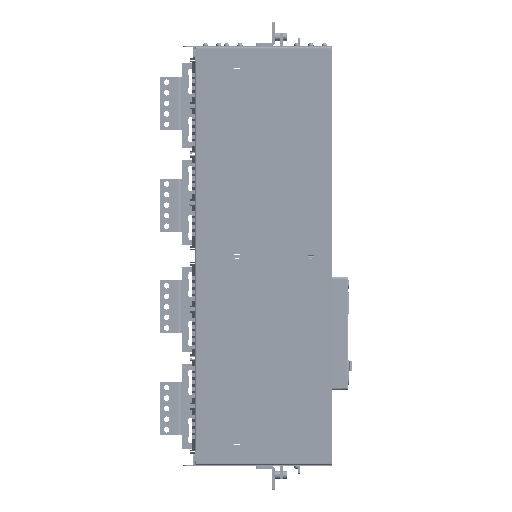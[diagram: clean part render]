
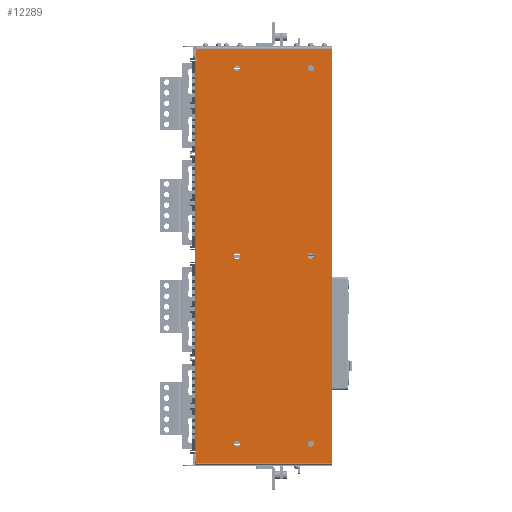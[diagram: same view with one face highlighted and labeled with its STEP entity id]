
A CAD part, front view. The second image highlights one B-rep face of the part: STEP entity #12289.
In plain terms, the highlighted planar face has unit normal (0, -1, 0).
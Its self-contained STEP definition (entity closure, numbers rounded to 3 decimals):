
#10759=DIRECTION('',(0.,0.,1.));
#10760=VECTOR('',#10759,2.2);
#10761=CARTESIAN_POINT('',(-763.2,-3.2,157.7));
#10762=LINE('',#10761,#10760);
#10771=CARTESIAN_POINT('',(-764.2,-3.2,159.9));
#10772=DIRECTION('',(0.,1.,0.));
#10773=DIRECTION('',(0.,0.,1.));
#10774=AXIS2_PLACEMENT_3D('',#10771,#10772,#10773);
#10776=DIRECTION('',(1.,0.,0.));
#10777=VECTOR('',#10776,4.);
#10778=CARTESIAN_POINT('',(-763.2,-3.2,157.7));
#10779=LINE('',#10778,#10777);
#10780=DIRECTION('',(0.,0.,1.));
#10781=VECTOR('',#10780,2.7);
#10782=CARTESIAN_POINT('',(-759.2,-3.2,157.7));
#10783=LINE('',#10782,#10781);
#10784=DIRECTION('',(0.,0.,-1.));
#10785=VECTOR('',#10784,2.7);
#10786=CARTESIAN_POINT('',(162.,-3.2,160.4));
#10787=LINE('',#10786,#10785);
#10788=DIRECTION('',(1.,0.,0.));
#10789=VECTOR('',#10788,4.);
#10790=CARTESIAN_POINT('',(162.,-3.2,157.7));
#10791=LINE('',#10790,#10789);
#10792=DIRECTION('',(0.,0.,1.));
#10793=VECTOR('',#10792,2.2);
#10794=CARTESIAN_POINT('',(166.,-3.2,157.7));
#10795=LINE('',#10794,#10793);
#10796=CARTESIAN_POINT('',(167.,-3.2,159.9));
#10797=DIRECTION('',(0.,1.,0.));
#10798=DIRECTION('',(-1.,0.,0.));
#10799=AXIS2_PLACEMENT_3D('',#10796,#10797,#10798);
#10801=DIRECTION('',(-1.,0.,0.));
#10802=VECTOR('',#10801,982.4);
#10803=CARTESIAN_POINT('',(192.6,-3.2,-160.9));
#10804=LINE('',#10803,#10802);
#10805=CARTESIAN_POINT('',(146.4,-3.2,64.1));
#10806=DIRECTION('',(0.,-1.,0.));
#10807=DIRECTION('',(-1.,0.,0.));
#10808=AXIS2_PLACEMENT_3D('',#10805,#10806,#10807);
#10810=CARTESIAN_POINT('',(146.4,-3.2,64.1));
#10811=DIRECTION('',(0.,-1.,0.));
#10812=DIRECTION('',(1.,0.,0.));
#10813=AXIS2_PLACEMENT_3D('',#10810,#10811,#10812);
#10815=CARTESIAN_POINT('',(-743.6,-3.2,64.1));
#10816=DIRECTION('',(0.,-1.,0.));
#10817=DIRECTION('',(-1.,0.,0.));
#10818=AXIS2_PLACEMENT_3D('',#10815,#10816,#10817);
#10820=CARTESIAN_POINT('',(-743.6,-3.2,64.1));
#10821=DIRECTION('',(0.,-1.,0.));
#10822=DIRECTION('',(1.,0.,0.));
#10823=AXIS2_PLACEMENT_3D('',#10820,#10821,#10822);
#10825=CARTESIAN_POINT('',(-298.6,-3.2,64.1));
#10826=DIRECTION('',(0.,-1.,0.));
#10827=DIRECTION('',(-1.,0.,0.));
#10828=AXIS2_PLACEMENT_3D('',#10825,#10826,#10827);
#10830=CARTESIAN_POINT('',(-298.6,-3.2,64.1));
#10831=DIRECTION('',(0.,-1.,0.));
#10832=DIRECTION('',(1.,0.,0.));
#10833=AXIS2_PLACEMENT_3D('',#10830,#10831,#10832);
#10835=CARTESIAN_POINT('',(146.4,-3.2,-110.9));
#10836=DIRECTION('',(0.,-1.,0.));
#10837=DIRECTION('',(-1.,0.,0.));
#10838=AXIS2_PLACEMENT_3D('',#10835,#10836,#10837);
#10840=CARTESIAN_POINT('',(146.4,-3.2,-110.9));
#10841=DIRECTION('',(0.,-1.,0.));
#10842=DIRECTION('',(1.,0.,0.));
#10843=AXIS2_PLACEMENT_3D('',#10840,#10841,#10842);
#10845=CARTESIAN_POINT('',(-298.6,-3.2,-110.9));
#10846=DIRECTION('',(0.,-1.,0.));
#10847=DIRECTION('',(-1.,0.,0.));
#10848=AXIS2_PLACEMENT_3D('',#10845,#10846,#10847);
#10850=CARTESIAN_POINT('',(-298.6,-3.2,-110.9));
#10851=DIRECTION('',(0.,-1.,0.));
#10852=DIRECTION('',(1.,0.,0.));
#10853=AXIS2_PLACEMENT_3D('',#10850,#10851,#10852);
#10855=CARTESIAN_POINT('',(-743.6,-3.2,-110.9));
#10856=DIRECTION('',(0.,-1.,0.));
#10857=DIRECTION('',(-1.,0.,0.));
#10858=AXIS2_PLACEMENT_3D('',#10855,#10856,#10857);
#10860=CARTESIAN_POINT('',(-743.6,-3.2,-110.9));
#10861=DIRECTION('',(0.,-1.,0.));
#10862=DIRECTION('',(1.,0.,0.));
#10863=AXIS2_PLACEMENT_3D('',#10860,#10861,#10862);
#10887=DIRECTION('',(-1.,0.,0.));
#10888=VECTOR('',#10887,921.2);
#10889=CARTESIAN_POINT('',(162.,-3.2,160.4));
#10890=LINE('',#10889,#10888);
#11015=DIRECTION('',(-1.,0.,0.));
#11016=VECTOR('',#11015,25.6);
#11017=CARTESIAN_POINT('',(192.6,-3.2,160.9));
#11018=LINE('',#11017,#11016);
#11221=DIRECTION('',(0.,0.,1.));
#11222=VECTOR('',#11221,321.8);
#11223=CARTESIAN_POINT('',(192.6,-3.2,-160.9));
#11224=LINE('',#11223,#11222);
#11331=DIRECTION('',(0.,0.,-1.));
#11332=VECTOR('',#11331,321.8);
#11333=CARTESIAN_POINT('',(-789.8,-3.2,160.9));
#11334=LINE('',#11333,#11332);
#11462=DIRECTION('',(-1.,0.,0.));
#11463=VECTOR('',#11462,25.6);
#11464=CARTESIAN_POINT('',(-764.2,-3.2,160.9));
#11465=LINE('',#11464,#11463);
#11590=CARTESIAN_POINT('',(-789.8,-3.2,-160.9));
#11591=VERTEX_POINT('',#11590);
#11592=CARTESIAN_POINT('',(192.6,-3.2,-160.9));
#11593=VERTEX_POINT('',#11592);
#11724=CARTESIAN_POINT('',(-763.2,-3.2,159.9));
#11725=VERTEX_POINT('',#11724);
#11726=CARTESIAN_POINT('',(-764.2,-3.2,160.9));
#11727=VERTEX_POINT('',#11726);
#11728=CARTESIAN_POINT('',(-763.2,-3.2,157.7));
#11729=VERTEX_POINT('',#11728);
#11730=CARTESIAN_POINT('',(-759.2,-3.2,157.7));
#11731=VERTEX_POINT('',#11730);
#11732=CARTESIAN_POINT('',(-759.2,-3.2,160.4));
#11733=VERTEX_POINT('',#11732);
#11734=CARTESIAN_POINT('',(162.,-3.2,160.4));
#11735=VERTEX_POINT('',#11734);
#11736=CARTESIAN_POINT('',(162.,-3.2,157.7));
#11737=VERTEX_POINT('',#11736);
#11738=CARTESIAN_POINT('',(166.,-3.2,157.7));
#11739=VERTEX_POINT('',#11738);
#11740=CARTESIAN_POINT('',(166.,-3.2,159.9));
#11741=VERTEX_POINT('',#11740);
#11742=CARTESIAN_POINT('',(167.,-3.2,160.9));
#11743=VERTEX_POINT('',#11742);
#11744=CARTESIAN_POINT('',(192.6,-3.2,160.9));
#11745=VERTEX_POINT('',#11744);
#11746=CARTESIAN_POINT('',(-789.8,-3.2,160.9));
#11747=VERTEX_POINT('',#11746);
#11748=CARTESIAN_POINT('',(139.4,-3.2,64.1));
#11749=CARTESIAN_POINT('',(153.4,-3.2,64.1));
#11750=VERTEX_POINT('',#11748);
#11751=VERTEX_POINT('',#11749);
#11752=CARTESIAN_POINT('',(-750.6,-3.2,64.1));
#11753=CARTESIAN_POINT('',(-736.6,-3.2,64.1));
#11754=VERTEX_POINT('',#11752);
#11755=VERTEX_POINT('',#11753);
#11756=CARTESIAN_POINT('',(-305.6,-3.2,64.1));
#11757=CARTESIAN_POINT('',(-291.6,-3.2,64.1));
#11758=VERTEX_POINT('',#11756);
#11759=VERTEX_POINT('',#11757);
#11760=CARTESIAN_POINT('',(139.4,-3.2,-110.9));
#11761=CARTESIAN_POINT('',(153.4,-3.2,-110.9));
#11762=VERTEX_POINT('',#11760);
#11763=VERTEX_POINT('',#11761);
#11764=CARTESIAN_POINT('',(-305.6,-3.2,-110.9));
#11765=CARTESIAN_POINT('',(-291.6,-3.2,-110.9));
#11766=VERTEX_POINT('',#11764);
#11767=VERTEX_POINT('',#11765);
#11768=CARTESIAN_POINT('',(-750.6,-3.2,-110.9));
#11769=CARTESIAN_POINT('',(-736.6,-3.2,-110.9));
#11770=VERTEX_POINT('',#11768);
#11771=VERTEX_POINT('',#11769);
#12222=CARTESIAN_POINT('',(-793.5,-3.2,-160.9));
#12223=DIRECTION('',(0.,-1.,0.));
#12224=DIRECTION('',(1.,0.,0.));
#12225=AXIS2_PLACEMENT_3D('',#12222,#12223,#12224);
#12226=PLANE('',#12225);
#12227=ORIENTED_EDGE('',*,*,#12187,.T.);
#12228=ORIENTED_EDGE('',*,*,#12203,.F.);
#12229=ORIENTED_EDGE('',*,*,#12213,.T.);
#12231=ORIENTED_EDGE('',*,*,#12230,.T.);
#12233=ORIENTED_EDGE('',*,*,#12232,.F.);
#12235=ORIENTED_EDGE('',*,*,#12234,.T.);
#12237=ORIENTED_EDGE('',*,*,#12236,.T.);
#12239=ORIENTED_EDGE('',*,*,#12238,.T.);
#12241=ORIENTED_EDGE('',*,*,#12240,.T.);
#12243=ORIENTED_EDGE('',*,*,#12242,.F.);
#12245=ORIENTED_EDGE('',*,*,#12244,.F.);
#12246=ORIENTED_EDGE('',*,*,#11923,.T.);
#12248=ORIENTED_EDGE('',*,*,#12247,.F.);
#12250=ORIENTED_EDGE('',*,*,#12249,.F.);
#12251=EDGE_LOOP('',(#12227,#12228,#12229,#12231,#12233,#12235,#12237,#12239,
#12241,#12243,#12245,#12246,#12248,#12250));
#12252=FACE_OUTER_BOUND('',#12251,.F.);
#12254=ORIENTED_EDGE('',*,*,#12253,.T.);
#12256=ORIENTED_EDGE('',*,*,#12255,.T.);
#12257=EDGE_LOOP('',(#12254,#12256));
#12258=FACE_BOUND('',#12257,.F.);
#12260=ORIENTED_EDGE('',*,*,#12259,.T.);
#12262=ORIENTED_EDGE('',*,*,#12261,.T.);
#12263=EDGE_LOOP('',(#12260,#12262));
#12264=FACE_BOUND('',#12263,.F.);
#12266=ORIENTED_EDGE('',*,*,#12265,.T.);
#12268=ORIENTED_EDGE('',*,*,#12267,.T.);
#12269=EDGE_LOOP('',(#12266,#12268));
#12270=FACE_BOUND('',#12269,.F.);
#12272=ORIENTED_EDGE('',*,*,#12271,.T.);
#12274=ORIENTED_EDGE('',*,*,#12273,.T.);
#12275=EDGE_LOOP('',(#12272,#12274));
#12276=FACE_BOUND('',#12275,.F.);
#12278=ORIENTED_EDGE('',*,*,#12277,.T.);
#12280=ORIENTED_EDGE('',*,*,#12279,.T.);
#12281=EDGE_LOOP('',(#12278,#12280));
#12282=FACE_BOUND('',#12281,.F.);
#12284=ORIENTED_EDGE('',*,*,#12283,.T.);
#12286=ORIENTED_EDGE('',*,*,#12285,.T.);
#12287=EDGE_LOOP('',(#12284,#12286));
#12288=FACE_BOUND('',#12287,.F.);
#12289=ADVANCED_FACE('',(#12252,#12258,#12264,#12270,#12276,#12282,#12288),
#12226,.T.);
#10775=CIRCLE('',#10774,1.);
#10800=CIRCLE('',#10799,1.);
#10809=CIRCLE('',#10808,7.);
#10814=CIRCLE('',#10813,7.);
#10819=CIRCLE('',#10818,7.);
#10824=CIRCLE('',#10823,7.);
#10829=CIRCLE('',#10828,7.);
#10834=CIRCLE('',#10833,7.);
#10839=CIRCLE('',#10838,7.);
#10844=CIRCLE('',#10843,7.);
#10849=CIRCLE('',#10848,7.);
#10854=CIRCLE('',#10853,7.);
#10859=CIRCLE('',#10858,7.);
#10864=CIRCLE('',#10863,7.);
#11923=EDGE_CURVE('',#11593,#11591,#10804,.T.);
#12187=EDGE_CURVE('',#11727,#11725,#10775,.T.);
#12203=EDGE_CURVE('',#11729,#11725,#10762,.T.);
#12213=EDGE_CURVE('',#11729,#11731,#10779,.T.);
#12230=EDGE_CURVE('',#11731,#11733,#10783,.T.);
#12232=EDGE_CURVE('',#11735,#11733,#10890,.T.);
#12234=EDGE_CURVE('',#11735,#11737,#10787,.T.);
#12236=EDGE_CURVE('',#11737,#11739,#10791,.T.);
#12238=EDGE_CURVE('',#11739,#11741,#10795,.T.);
#12240=EDGE_CURVE('',#11741,#11743,#10800,.T.);
#12242=EDGE_CURVE('',#11745,#11743,#11018,.T.);
#12244=EDGE_CURVE('',#11593,#11745,#11224,.T.);
#12247=EDGE_CURVE('',#11747,#11591,#11334,.T.);
#12249=EDGE_CURVE('',#11727,#11747,#11465,.T.);
#12253=EDGE_CURVE('',#11750,#11751,#10809,.T.);
#12255=EDGE_CURVE('',#11751,#11750,#10814,.T.);
#12259=EDGE_CURVE('',#11754,#11755,#10819,.T.);
#12261=EDGE_CURVE('',#11755,#11754,#10824,.T.);
#12265=EDGE_CURVE('',#11758,#11759,#10829,.T.);
#12267=EDGE_CURVE('',#11759,#11758,#10834,.T.);
#12271=EDGE_CURVE('',#11762,#11763,#10839,.T.);
#12273=EDGE_CURVE('',#11763,#11762,#10844,.T.);
#12277=EDGE_CURVE('',#11766,#11767,#10849,.T.);
#12279=EDGE_CURVE('',#11767,#11766,#10854,.T.);
#12283=EDGE_CURVE('',#11770,#11771,#10859,.T.);
#12285=EDGE_CURVE('',#11771,#11770,#10864,.T.);
